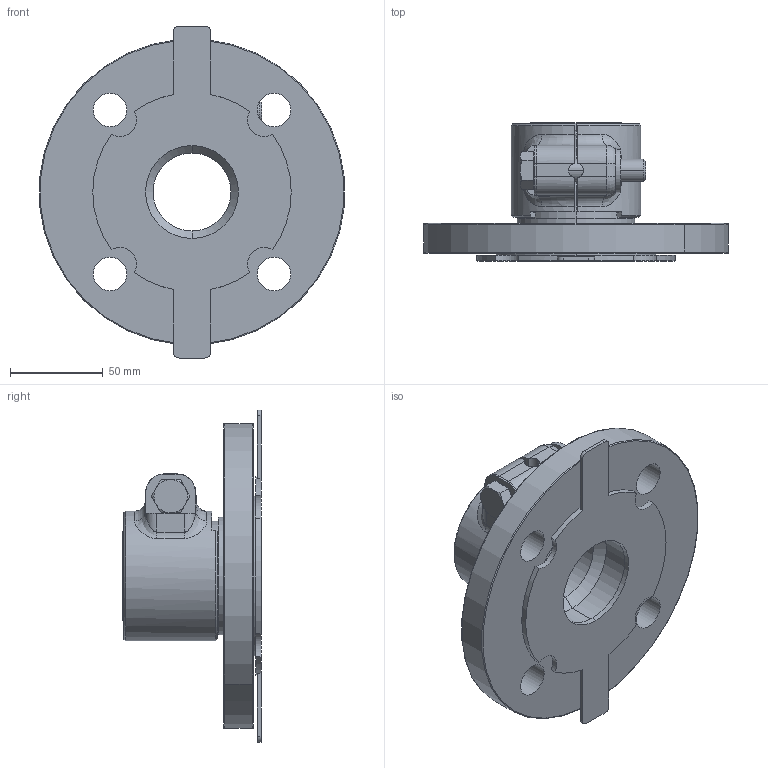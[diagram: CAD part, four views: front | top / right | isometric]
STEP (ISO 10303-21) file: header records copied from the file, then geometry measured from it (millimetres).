
FILE_DESCRIPTION (( 'STEP AP214' ), '1' );
FILE_NAME ('KP_C14-F5-63.step', '2012-05-23T14:31:31', ( 'robinj' ), ( 'Microsoft' ), 'SwSTEP 2.0', 'SolidWorks 2012', '' );
FILE_SCHEMA (( 'AUTOMOTIVE_DESIGN' ));
Length unit declared in the file: millimetre
Products named in the file (1): KP_C14-F5-63
Bounding box: 164.37 x 74.5 x 179 mm (x, y, z)
Volume: 409436.9 mm3; surface area: 132966.5 mm2
Topology: 7 solids, 7 shells, 346 faces, 823 edges, 494 vertices
Faces by surface type: cylinder 121, plane 87, bspline 50, cone 42, torus 38, sphere 8
Entity records: 17076 total; most frequent: CARTESIAN_POINT 5328, DIRECTION 1662, ORIENTED_EDGE 1630, EDGE_CURVE 815, AXIS2_PLACEMENT_3D 675, VERTEX_POINT 494, EDGE_LOOP 379, CIRCLE 378
